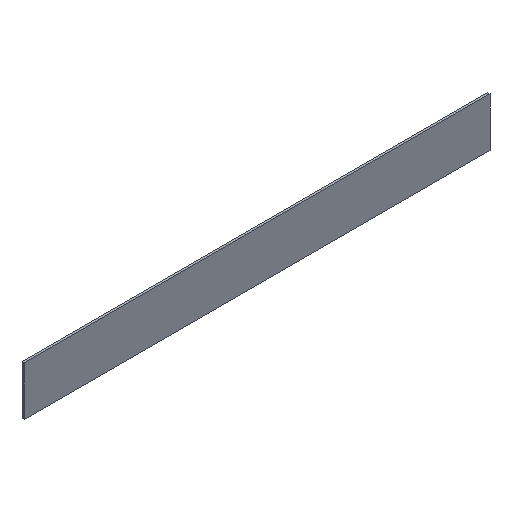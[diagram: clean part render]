
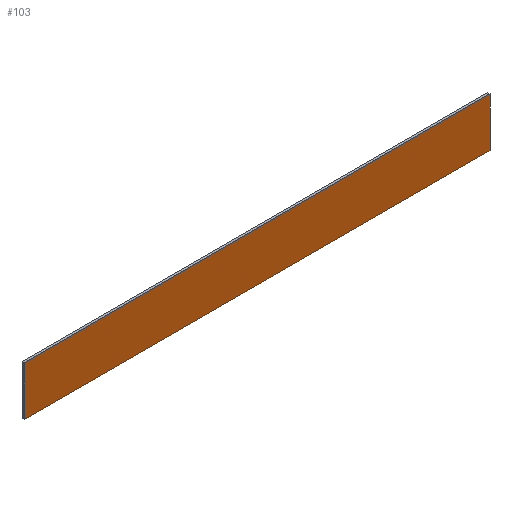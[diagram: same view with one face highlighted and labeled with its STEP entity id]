
A CAD part, isometric view. The second image highlights one B-rep face of the part: STEP entity #103.
In plain terms, the highlighted planar face has unit normal (0, -1, 0).
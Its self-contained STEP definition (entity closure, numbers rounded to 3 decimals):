
#17=FACE_OUTER_BOUND('',#23,.T.);
#23=EDGE_LOOP('',(#79,#80,#81,#82));
#27=LINE('',#157,#39);
#31=LINE('',#166,#43);
#35=LINE('',#173,#47);
#36=LINE('',#174,#48);
#39=VECTOR('',#131,1.);
#43=VECTOR('',#137,1.);
#47=VECTOR('',#143,1.);
#48=VECTOR('',#144,1.);
#51=VERTEX_POINT('',#155);
#52=VERTEX_POINT('',#156);
#55=VERTEX_POINT('',#164);
#56=VERTEX_POINT('',#165);
#59=EDGE_CURVE('',#51,#52,#27,.T.);
#63=EDGE_CURVE('',#55,#56,#31,.T.);
#67=EDGE_CURVE('',#51,#55,#35,.T.);
#68=EDGE_CURVE('',#52,#56,#36,.T.);
#79=ORIENTED_EDGE('',*,*,#67,.T.);
#80=ORIENTED_EDGE('',*,*,#63,.T.);
#81=ORIENTED_EDGE('',*,*,#68,.F.);
#82=ORIENTED_EDGE('',*,*,#59,.F.);
#97=PLANE('',#123);
#103=ADVANCED_FACE('',(#17),#97,.F.);
#123=AXIS2_PLACEMENT_3D('',#172,#141,#142);
#131=DIRECTION('',(0.,0.,1.));
#137=DIRECTION('',(0.,0.,1.));
#141=DIRECTION('center_axis',(0.,1.,0.));
#142=DIRECTION('ref_axis',(0.,0.,1.));
#143=DIRECTION('',(1.,0.,0.));
#144=DIRECTION('',(1.,0.,0.));
#155=CARTESIAN_POINT('',(-27.,28.02,-15.8));
#156=CARTESIAN_POINT('',(-27.,28.02,-10.1));
#157=CARTESIAN_POINT('',(-27.,28.02,-15.8));
#164=CARTESIAN_POINT('',(27.,28.02,-15.8));
#165=CARTESIAN_POINT('',(27.,28.02,-10.1));
#166=CARTESIAN_POINT('',(27.,28.02,-15.8));
#172=CARTESIAN_POINT('Origin',(-27.,28.02,-15.8));
#173=CARTESIAN_POINT('',(-27.,28.02,-15.8));
#174=CARTESIAN_POINT('',(-27.,28.02,-10.1));
